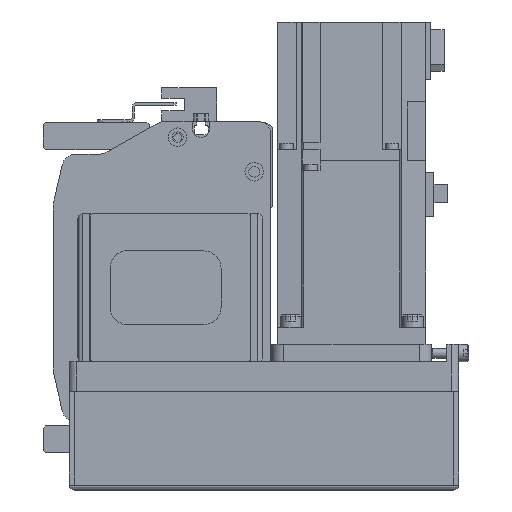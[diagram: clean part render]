
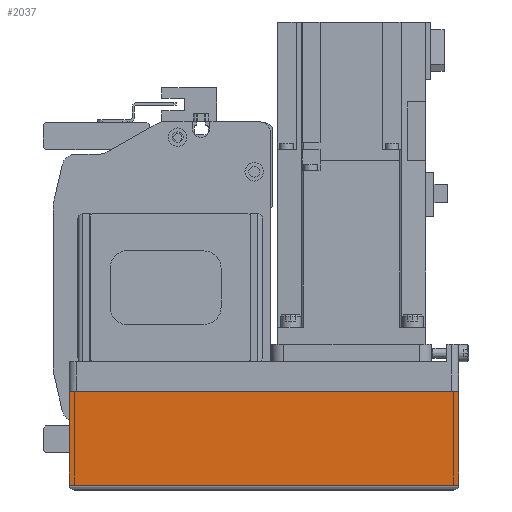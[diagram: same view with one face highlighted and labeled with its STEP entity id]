
A CAD part, left-side view. The second image highlights one B-rep face of the part: STEP entity #2037.
In plain terms, the highlighted planar face has unit normal (-1, 0, 0) as drawn and (0, 1, 0) by its records, which use the part's own axes.
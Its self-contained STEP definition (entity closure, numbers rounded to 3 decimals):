
#2037 = ADVANCED_FACE( '', ( #4707 ), #4708, .T. );
#4707 = FACE_OUTER_BOUND( '', #8149, .T. );
#4708 = PLANE( '', #8150 );
#8149 = EDGE_LOOP( '', ( #13735, #13736, #13737, #13738 ) );
#8150 = AXIS2_PLACEMENT_3D( '', #13739, #13740, #13741 );
#13735 = ORIENTED_EDGE( '', *, *, #21016, .F. );
#13736 = ORIENTED_EDGE( '', *, *, #20981, .F. );
#13737 = ORIENTED_EDGE( '', *, *, #21353, .T. );
#13738 = ORIENTED_EDGE( '', *, *, #21354, .T. );
#13739 = CARTESIAN_POINT( '', ( -158., 39., -50. ) );
#13740 = DIRECTION( '', ( 0., 1., 0. ) );
#13741 = DIRECTION( '', ( 0., 0., 1. ) );
#20981 = EDGE_CURVE( '', #25621, #25025, #25623, .T. );
#21016 = EDGE_CURVE( '', #25025, #25673, #25674, .T. );
#21353 = EDGE_CURVE( '', #25621, #24329, #26192, .T. );
#21354 = EDGE_CURVE( '', #24329, #25673, #26193, .T. );
#24329 = VERTEX_POINT( '', #30402 );
#25025 = VERTEX_POINT( '', #31359 );
#25621 = VERTEX_POINT( '', #32401 );
#25623 = LINE( '', #32403, #32404 );
#25673 = VERTEX_POINT( '', #32471 );
#25674 = LINE( '', #32472, #32473 );
#26192 = LINE( '', #33192, #33193 );
#26193 = LINE( '', #33194, #33195 );
#30402 = CARTESIAN_POINT( '', ( -158., 39., -12.1 ) );
#31359 = CARTESIAN_POINT( '', ( 0., 39., -50. ) );
#32401 = CARTESIAN_POINT( '', ( -158., 39., -50. ) );
#32403 = CARTESIAN_POINT( '', ( -158., 39., -50. ) );
#32404 = VECTOR( '', #38289, 1000. );
#32471 = CARTESIAN_POINT( '', ( 0., 39., -12.1 ) );
#32472 = CARTESIAN_POINT( '', ( 0., 39., -50. ) );
#32473 = VECTOR( '', #38328, 1000. );
#33192 = CARTESIAN_POINT( '', ( -158., 39., -50. ) );
#33193 = VECTOR( '', #38748, 1000. );
#33194 = CARTESIAN_POINT( '', ( -158., 39., -12.1 ) );
#33195 = VECTOR( '', #38749, 1000. );
#38289 = DIRECTION( '', ( 1., 0., 0. ) );
#38328 = DIRECTION( '', ( 0., 0., 1. ) );
#38748 = DIRECTION( '', ( 0., 0., 1. ) );
#38749 = DIRECTION( '', ( 1., 0., 0. ) );
